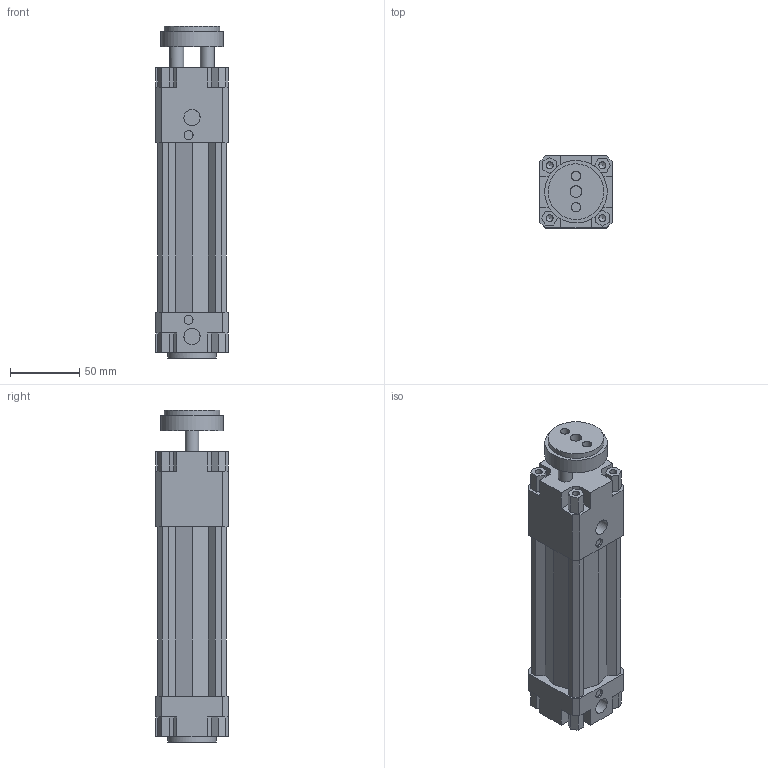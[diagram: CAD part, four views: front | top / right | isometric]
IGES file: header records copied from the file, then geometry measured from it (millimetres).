
Global section: file name: 134#_040_0075_01; native system: Autodesk Inventor 2014; preprocessor: unknown; author: A. Manieri; date: 20161006.164238; units: millimetre
Bounding box: 52 x 52 x 239 mm (x, y, z)
Volume: 387335.6 mm3; surface area: 100120.6 mm2
Topology: 2 solids, 2 shells, 180 faces, 492 edges, 336 vertices
Faces by surface type: bspline 180
